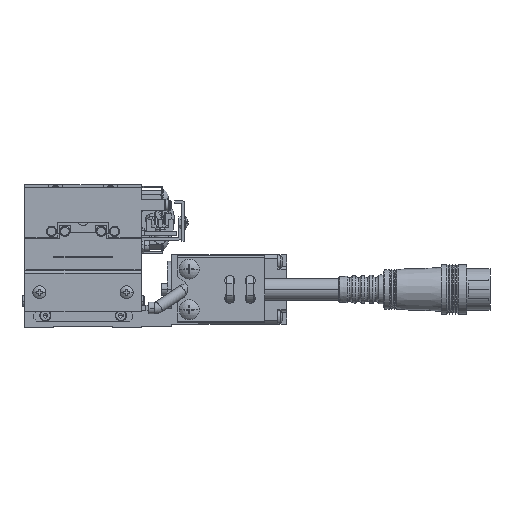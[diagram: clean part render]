
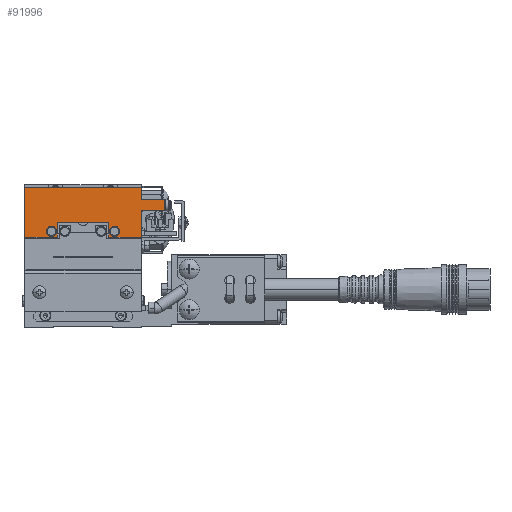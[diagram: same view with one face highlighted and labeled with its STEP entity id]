
A CAD part, front view. The second image highlights one B-rep face of the part: STEP entity #91996.
In plain terms, the highlighted planar face has unit normal (0, -1, 0) as drawn and (1, 0, 0) by its records, which use the part's own axes.
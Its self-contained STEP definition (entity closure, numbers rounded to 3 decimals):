
#342 = VERTEX_POINT ( 'NONE', #98638 ) ;
#447 = CARTESIAN_POINT ( 'NONE',  ( 20., 0., 24. ) ) ;
#725 = LINE ( 'NONE', #17611, #16799 ) ;
#2083 = ORIENTED_EDGE ( 'NONE', *, *, #59427, .T. ) ;
#3481 = LINE ( 'NONE', #17039, #77686 ) ;
#3596 = DIRECTION ( 'NONE',  ( 0., 1., 0. ) ) ;
#3735 = ORIENTED_EDGE ( 'NONE', *, *, #40181, .F. ) ;
#3931 = CARTESIAN_POINT ( 'NONE',  ( 20., 20., 16. ) ) ;
#4379 = VERTEX_POINT ( 'NONE', #44868 ) ;
#5299 = CARTESIAN_POINT ( 'NONE',  ( 20., -8.9, 12. ) ) ;
#5958 = DIRECTION ( 'NONE',  ( 0., 0., 1. ) ) ;
#6375 = LINE ( 'NONE', #23211, #28632 ) ;
#7656 = FACE_OUTER_BOUND ( 'NONE', #67616, .T. ) ;
#7984 = CARTESIAN_POINT ( 'NONE',  ( 20., -12.8, 7. ) ) ;
#9238 = CARTESIAN_POINT ( 'NONE',  ( 20., -20., 24. ) ) ;
#9673 = VECTOR ( 'NONE', #48678, 1000. ) ;
#10146 = EDGE_CURVE ( 'NONE', #44710, #66987, #94587, .T. ) ;
#10328 = DIRECTION ( 'NONE',  ( 0., -1., 0. ) ) ;
#10758 = CARTESIAN_POINT ( 'NONE',  ( 20., -9.1, 9. ) ) ;
#10826 = ORIENTED_EDGE ( 'NONE', *, *, #16573, .F. ) ;
#11412 = ORIENTED_EDGE ( 'NONE', *, *, #49450, .F. ) ;
#13688 = ORIENTED_EDGE ( 'NONE', *, *, #96969, .F. ) ;
#13824 = VERTEX_POINT ( 'NONE', #60669 ) ;
#14247 = DIRECTION ( 'NONE',  ( 0., 0., -1. ) ) ;
#14627 = VECTOR ( 'NONE', #97811, 1000. ) ;
#15038 = CIRCLE ( 'NONE', #45093, 1.75 ) ;
#15070 = FACE_BOUND ( 'NONE', #98386, .T. ) ;
#15467 = EDGE_CURVE ( 'NONE', #54828, #21690, #96564, .T. ) ;
#15658 = PLANE ( 'NONE',  #65015 ) ;
#15687 = LINE ( 'NONE', #5299, #97393 ) ;
#16235 = ORIENTED_EDGE ( 'NONE', *, *, #54553, .F. ) ;
#16573 = EDGE_CURVE ( 'NONE', #53893, #54828, #51758, .T. ) ;
#16799 = VECTOR ( 'NONE', #81210, 1000. ) ;
#17039 = CARTESIAN_POINT ( 'NONE',  ( 20., 8.9, 11. ) ) ;
#17611 = CARTESIAN_POINT ( 'NONE',  ( 20., 8.9, 12. ) ) ;
#18780 = FACE_BOUND ( 'NONE', #101390, .T. ) ;
#21690 = VERTEX_POINT ( 'NONE', #91268 ) ;
#23211 = CARTESIAN_POINT ( 'NONE',  ( 20., 28., 16. ) ) ;
#23646 = DIRECTION ( 'NONE',  ( 0., 0., 1. ) ) ;
#25859 = ORIENTED_EDGE ( 'NONE', *, *, #15467, .F. ) ;
#26097 = DIRECTION ( 'NONE',  ( 0., 0., -1. ) ) ;
#28258 = CARTESIAN_POINT ( 'NONE',  ( 20., -20., 24. ) ) ;
#28632 = VECTOR ( 'NONE', #101366, 1000. ) ;
#29209 = DIRECTION ( 'NONE',  ( 1., 0., 0. ) ) ;
#29507 = VERTEX_POINT ( 'NONE', #90879 ) ;
#29731 = VECTOR ( 'NONE', #49706, 1000. ) ;
#30280 = EDGE_CURVE ( 'NONE', #29507, #21690, #6375, .T. ) ;
#30319 = ORIENTED_EDGE ( 'NONE', *, *, #10146, .F. ) ;
#30858 = VERTEX_POINT ( 'NONE', #9238 ) ;
#31903 = ORIENTED_EDGE ( 'NONE', *, *, #83948, .F. ) ;
#31932 = CARTESIAN_POINT ( 'NONE',  ( 20., 20., 20. ) ) ;
#32875 = CARTESIAN_POINT ( 'NONE',  ( 20., -10.85, 9. ) ) ;
#33221 = CARTESIAN_POINT ( 'NONE',  ( 20., -10.85, 9. ) ) ;
#35223 = CARTESIAN_POINT ( 'NONE',  ( 20., -12.6, 9. ) ) ;
#36603 = ORIENTED_EDGE ( 'NONE', *, *, #68524, .T. ) ;
#39804 = DIRECTION ( 'NONE',  ( -1., 0., 0. ) ) ;
#39959 = ORIENTED_EDGE ( 'NONE', *, *, #46385, .F. ) ;
#40181 = EDGE_CURVE ( 'NONE', #69638, #64018, #51210, .T. ) ;
#42119 = AXIS2_PLACEMENT_3D ( 'NONE', #84182, #29209, #68271 ) ;
#42713 = LINE ( 'NONE', #81397, #61281 ) ;
#43102 = CARTESIAN_POINT ( 'NONE',  ( 20., 20., 7. ) ) ;
#44710 = VERTEX_POINT ( 'NONE', #88753 ) ;
#44868 = CARTESIAN_POINT ( 'NONE',  ( 20., 9.1, 9. ) ) ;
#45093 = AXIS2_PLACEMENT_3D ( 'NONE', #33221, #72659, #10328 ) ;
#45927 = VERTEX_POINT ( 'NONE', #35223 ) ;
#46129 = ORIENTED_EDGE ( 'NONE', *, *, #83669, .F. ) ;
#46385 = EDGE_CURVE ( 'NONE', #67429, #44710, #69043, .T. ) ;
#47024 = DIRECTION ( 'NONE',  ( 1., 0., 0. ) ) ;
#47549 = ORIENTED_EDGE ( 'NONE', *, *, #98073, .T. ) ;
#48375 = EDGE_CURVE ( 'NONE', #64018, #30858, #66830, .T. ) ;
#48454 = DIRECTION ( 'NONE',  ( 0., -1., 0. ) ) ;
#48678 = DIRECTION ( 'NONE',  ( 0., 0., -1. ) ) ;
#49450 = EDGE_CURVE ( 'NONE', #342, #69638, #15687, .T. ) ;
#49706 = DIRECTION ( 'NONE',  ( 0., 1., 0. ) ) ;
#49969 = ORIENTED_EDGE ( 'NONE', *, *, #30280, .T. ) ;
#51210 = LINE ( 'NONE', #7984, #69778 ) ;
#51758 = LINE ( 'NONE', #88116, #9673 ) ;
#53893 = VERTEX_POINT ( 'NONE', #97669 ) ;
#54001 = AXIS2_PLACEMENT_3D ( 'NONE', #62261, #47024, #70180 ) ;
#54553 = EDGE_CURVE ( 'NONE', #13824, #4379, #101643, .T. ) ;
#54828 = VERTEX_POINT ( 'NONE', #31932 ) ;
#55533 = CARTESIAN_POINT ( 'NONE',  ( 20., 20., 24. ) ) ;
#58686 = CARTESIAN_POINT ( 'NONE',  ( 20., 20., 20. ) ) ;
#59427 = EDGE_CURVE ( 'NONE', #45927, #71682, #78405, .T. ) ;
#60669 = CARTESIAN_POINT ( 'NONE',  ( 20., 12.6, 9. ) ) ;
#61132 = VECTOR ( 'NONE', #98444, 1000. ) ;
#61281 = VECTOR ( 'NONE', #3596, 1000. ) ;
#62261 = CARTESIAN_POINT ( 'NONE',  ( 20., 10.85, 9. ) ) ;
#62857 = CARTESIAN_POINT ( 'NONE',  ( 20., -20., 7. ) ) ;
#64018 = VERTEX_POINT ( 'NONE', #62857 ) ;
#64708 = DIRECTION ( 'NONE',  ( 0., -1., 0. ) ) ;
#65015 = AXIS2_PLACEMENT_3D ( 'NONE', #447, #95935, #23646 ) ;
#66712 = LINE ( 'NONE', #28258, #14627 ) ;
#66830 = LINE ( 'NONE', #92452, #70486 ) ;
#66987 = VERTEX_POINT ( 'NONE', #76300 ) ;
#67429 = VERTEX_POINT ( 'NONE', #3931 ) ;
#67616 = EDGE_LOOP ( 'NONE', ( #3735, #11412, #13688, #31903, #30319, #39959, #47549, #49969, #25859, #10826, #46129, #98919 ) ) ;
#68271 = DIRECTION ( 'NONE',  ( 0., 1., 0. ) ) ;
#68298 = CIRCLE ( 'NONE', #54001, 1.75 ) ;
#68524 = EDGE_CURVE ( 'NONE', #71682, #45927, #15038, .T. ) ;
#69043 = LINE ( 'NONE', #55533, #87621 ) ;
#69638 = VERTEX_POINT ( 'NONE', #95267 ) ;
#69778 = VECTOR ( 'NONE', #48454, 1000. ) ;
#70180 = DIRECTION ( 'NONE',  ( 0., 1., 0. ) ) ;
#70486 = VECTOR ( 'NONE', #5958, 1000. ) ;
#71682 = VERTEX_POINT ( 'NONE', #10758 ) ;
#72659 = DIRECTION ( 'NONE',  ( -1., 0., 0. ) ) ;
#72749 = ORIENTED_EDGE ( 'NONE', *, *, #79691, .F. ) ;
#76300 = CARTESIAN_POINT ( 'NONE',  ( 20., 8.9, 7. ) ) ;
#77686 = VECTOR ( 'NONE', #100336, 1000. ) ;
#78405 = CIRCLE ( 'NONE', #101844, 1.75 ) ;
#79691 = EDGE_CURVE ( 'NONE', #4379, #13824, #68298, .T. ) ;
#81210 = DIRECTION ( 'NONE',  ( 0., -1., 0. ) ) ;
#81397 = CARTESIAN_POINT ( 'NONE',  ( 20., 20., 16. ) ) ;
#83669 = EDGE_CURVE ( 'NONE', #30858, #53893, #66712, .T. ) ;
#83948 = EDGE_CURVE ( 'NONE', #66987, #95661, #3481, .T. ) ;
#84182 = CARTESIAN_POINT ( 'NONE',  ( 20., 10.85, 9. ) ) ;
#85455 = CARTESIAN_POINT ( 'NONE',  ( 20., 8.9, 12. ) ) ;
#87621 = VECTOR ( 'NONE', #26097, 1000. ) ;
#88116 = CARTESIAN_POINT ( 'NONE',  ( 20., 20., 24. ) ) ;
#88753 = CARTESIAN_POINT ( 'NONE',  ( 20., 20., 7. ) ) ;
#90879 = CARTESIAN_POINT ( 'NONE',  ( 20., 28., 16. ) ) ;
#91268 = CARTESIAN_POINT ( 'NONE',  ( 20., 28., 20. ) ) ;
#91996 = ADVANCED_FACE ( 'NONE', ( #7656, #15070, #18780 ), #15658, .F. ) ;
#92452 = CARTESIAN_POINT ( 'NONE',  ( 20., -20., 7. ) ) ;
#94587 = LINE ( 'NONE', #43102, #61132 ) ;
#95267 = CARTESIAN_POINT ( 'NONE',  ( 20., -8.9, 7. ) ) ;
#95661 = VERTEX_POINT ( 'NONE', #85455 ) ;
#95935 = DIRECTION ( 'NONE',  ( -1., 0., 0. ) ) ;
#96564 = LINE ( 'NONE', #58686, #29731 ) ;
#96969 = EDGE_CURVE ( 'NONE', #95661, #342, #725, .T. ) ;
#97393 = VECTOR ( 'NONE', #14247, 1000. ) ;
#97669 = CARTESIAN_POINT ( 'NONE',  ( 20., 20., 24. ) ) ;
#97811 = DIRECTION ( 'NONE',  ( 0., 1., 0. ) ) ;
#98073 = EDGE_CURVE ( 'NONE', #67429, #29507, #42713, .T. ) ;
#98386 = EDGE_LOOP ( 'NONE', ( #2083, #36603 ) ) ;
#98444 = DIRECTION ( 'NONE',  ( 0., -1., 0. ) ) ;
#98638 = CARTESIAN_POINT ( 'NONE',  ( 20., -8.9, 12. ) ) ;
#98919 = ORIENTED_EDGE ( 'NONE', *, *, #48375, .F. ) ;
#100336 = DIRECTION ( 'NONE',  ( 0., 0., 1. ) ) ;
#101366 = DIRECTION ( 'NONE',  ( 0., 0., 1. ) ) ;
#101390 = EDGE_LOOP ( 'NONE', ( #16235, #72749 ) ) ;
#101643 = CIRCLE ( 'NONE', #42119, 1.75 ) ;
#101844 = AXIS2_PLACEMENT_3D ( 'NONE', #32875, #39804, #64708 ) ;
